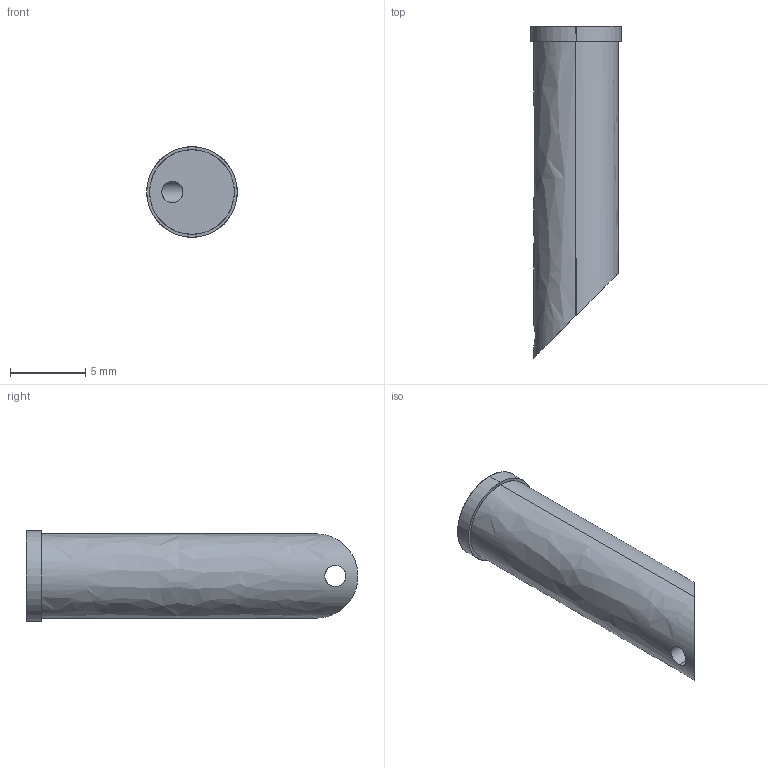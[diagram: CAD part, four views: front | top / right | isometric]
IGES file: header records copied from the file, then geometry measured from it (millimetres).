
Start section: SolidWorks IGES file using analytic representation for surfaces
Global section: file name: F:\OneDrive\Desktop\Coda\28.6\Front Fitment Completed\PC4 series RTP\RC4S-G.IGS; native system: SolidWorks 2021; preprocessor: SolidWorks 2021; author: Georg; date: 210707.154511; units: millimetre
Bounding box: 6 x 22 x 6 mm (x, y, z)
Surface area: 408.5 mm2 (no closed solid volume)
Topology: 0 solids, 0 shells, 9 faces, 262 edges, 262 vertices
Faces by surface type: revolution 6, bspline 3
